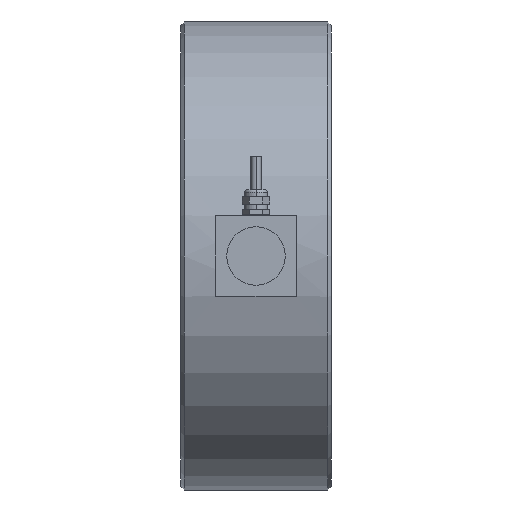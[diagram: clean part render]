
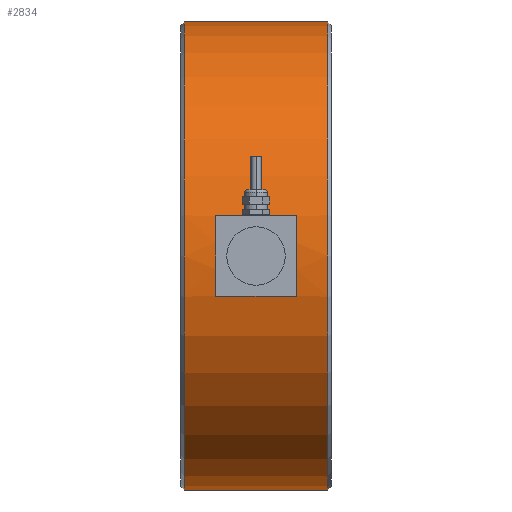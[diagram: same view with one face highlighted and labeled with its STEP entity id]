
A CAD part, left-side view. The second image highlights one B-rep face of the part: STEP entity #2834.
In plain terms, the highlighted cylindrical face has radius 140 mm (diameter 280 mm), a partial arc.
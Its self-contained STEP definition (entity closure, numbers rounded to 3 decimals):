
#20 = EDGE_CURVE ( 'NONE', #813, #2650, #2843, .T. ) ;
#33 = DIRECTION ( 'NONE',  ( 0., -1., 0. ) ) ;
#41 = LINE ( 'NONE', #939, #71 ) ;
#71 = VECTOR ( 'NONE', #1114, 1000. ) ;
#75 = FACE_OUTER_BOUND ( 'NONE', #800, .T. ) ;
#93 = DIRECTION ( 'NONE',  ( 0., 1., 0. ) ) ;
#236 = CARTESIAN_POINT ( 'NONE',  ( 0., 2., -140. ) ) ;
#245 = CARTESIAN_POINT ( 'NONE',  ( -137.928, 69., 24. ) ) ;
#248 = CIRCLE ( 'NONE', #1634, 140. ) ;
#295 = CIRCLE ( 'NONE', #2838, 140. ) ;
#298 = CIRCLE ( 'NONE', #1910, 140. ) ;
#367 = DIRECTION ( 'NONE',  ( 0., 0., -1. ) ) ;
#436 = CARTESIAN_POINT ( 'NONE',  ( 0., 88., 0. ) ) ;
#539 = CARTESIAN_POINT ( 'NONE',  ( -137.928, 21., 24. ) ) ;
#565 = ORIENTED_EDGE ( 'NONE', *, *, #1833, .F. ) ;
#571 = VECTOR ( 'NONE', #2373, 1000. ) ;
#633 = VERTEX_POINT ( 'NONE', #1729 ) ;
#641 = AXIS2_PLACEMENT_3D ( 'NONE', #776, #1231, #367 ) ;
#669 = CARTESIAN_POINT ( 'NONE',  ( -137.928, 0., -24. ) ) ;
#671 = ORIENTED_EDGE ( 'NONE', *, *, #20, .T. ) ;
#683 = EDGE_CURVE ( 'NONE', #1486, #1161, #298, .T. ) ;
#684 = VERTEX_POINT ( 'NONE', #245 ) ;
#750 = ORIENTED_EDGE ( 'NONE', *, *, #2220, .F. ) ;
#774 = CARTESIAN_POINT ( 'NONE',  ( -137.928, 21., -24. ) ) ;
#776 = CARTESIAN_POINT ( 'NONE',  ( 0., 0., 0. ) ) ;
#800 = EDGE_LOOP ( 'NONE', ( #1235, #1937, #671, #2765 ) ) ;
#813 = VERTEX_POINT ( 'NONE', #2728 ) ;
#876 = VECTOR ( 'NONE', #1336, 1000. ) ;
#939 = CARTESIAN_POINT ( 'NONE',  ( 0., 0., 140. ) ) ;
#959 = CYLINDRICAL_SURFACE ( 'NONE', #641, 140. ) ;
#1012 = EDGE_CURVE ( 'NONE', #1131, #813, #2792, .T. ) ;
#1022 = EDGE_CURVE ( 'NONE', #1131, #2857, #41, .T. ) ;
#1114 = DIRECTION ( 'NONE',  ( 0., -1., 0. ) ) ;
#1131 = VERTEX_POINT ( 'NONE', #2499 ) ;
#1161 = VERTEX_POINT ( 'NONE', #539 ) ;
#1231 = DIRECTION ( 'NONE',  ( 0., -1., 0. ) ) ;
#1235 = ORIENTED_EDGE ( 'NONE', *, *, #1022, .F. ) ;
#1251 = DIRECTION ( 'NONE',  ( 0., 0., -1. ) ) ;
#1311 = DIRECTION ( 'NONE',  ( 0., 0., 1. ) ) ;
#1336 = DIRECTION ( 'NONE',  ( 0., 1., 0. ) ) ;
#1365 = CARTESIAN_POINT ( 'NONE',  ( 0., 69., 0. ) ) ;
#1486 = VERTEX_POINT ( 'NONE', #774 ) ;
#1519 = CARTESIAN_POINT ( 'NONE',  ( 0., 21., 0. ) ) ;
#1570 = ORIENTED_EDGE ( 'NONE', *, *, #1726, .T. ) ;
#1634 = AXIS2_PLACEMENT_3D ( 'NONE', #2360, #93, #1251 ) ;
#1726 = EDGE_CURVE ( 'NONE', #1486, #633, #2380, .T. ) ;
#1729 = CARTESIAN_POINT ( 'NONE',  ( -137.928, 69., -24. ) ) ;
#1785 = DIRECTION ( 'NONE',  ( 0., 0., 1. ) ) ;
#1806 = CARTESIAN_POINT ( 'NONE',  ( -137.928, 0., 24. ) ) ;
#1833 = EDGE_CURVE ( 'NONE', #684, #633, #295, .T. ) ;
#1864 = CARTESIAN_POINT ( 'NONE',  ( 0., 2., 140. ) ) ;
#1910 = AXIS2_PLACEMENT_3D ( 'NONE', #1519, #2394, #2221 ) ;
#1937 = ORIENTED_EDGE ( 'NONE', *, *, #1012, .T. ) ;
#1941 = EDGE_CURVE ( 'NONE', #2650, #2857, #248, .T. ) ;
#1958 = DIRECTION ( 'NONE',  ( 0., -1., 0. ) ) ;
#2088 = VECTOR ( 'NONE', #2689, 1000. ) ;
#2172 = ORIENTED_EDGE ( 'NONE', *, *, #683, .F. ) ;
#2220 = EDGE_CURVE ( 'NONE', #1161, #684, #2483, .T. ) ;
#2221 = DIRECTION ( 'NONE',  ( 0., 0., -1. ) ) ;
#2323 = EDGE_LOOP ( 'NONE', ( #2172, #1570, #565, #750 ) ) ;
#2340 = FACE_BOUND ( 'NONE', #2323, .T. ) ;
#2360 = CARTESIAN_POINT ( 'NONE',  ( 0., 2., 0. ) ) ;
#2373 = DIRECTION ( 'NONE',  ( 0., -1., 0. ) ) ;
#2380 = LINE ( 'NONE', #669, #876 ) ;
#2394 = DIRECTION ( 'NONE',  ( 0., 1., 0. ) ) ;
#2421 = AXIS2_PLACEMENT_3D ( 'NONE', #436, #1958, #1311 ) ;
#2483 = LINE ( 'NONE', #1806, #2088 ) ;
#2499 = CARTESIAN_POINT ( 'NONE',  ( 0., 88., 140. ) ) ;
#2650 = VERTEX_POINT ( 'NONE', #236 ) ;
#2689 = DIRECTION ( 'NONE',  ( 0., 1., 0. ) ) ;
#2728 = CARTESIAN_POINT ( 'NONE',  ( 0., 88., -140. ) ) ;
#2765 = ORIENTED_EDGE ( 'NONE', *, *, #1941, .T. ) ;
#2792 = CIRCLE ( 'NONE', #2421, 140. ) ;
#2825 = CARTESIAN_POINT ( 'NONE',  ( 0., 0., -140. ) ) ;
#2834 = ADVANCED_FACE ( 'NONE', ( #75, #2340 ), #959, .T. ) ;
#2838 = AXIS2_PLACEMENT_3D ( 'NONE', #1365, #33, #1785 ) ;
#2843 = LINE ( 'NONE', #2825, #571 ) ;
#2857 = VERTEX_POINT ( 'NONE', #1864 ) ;
